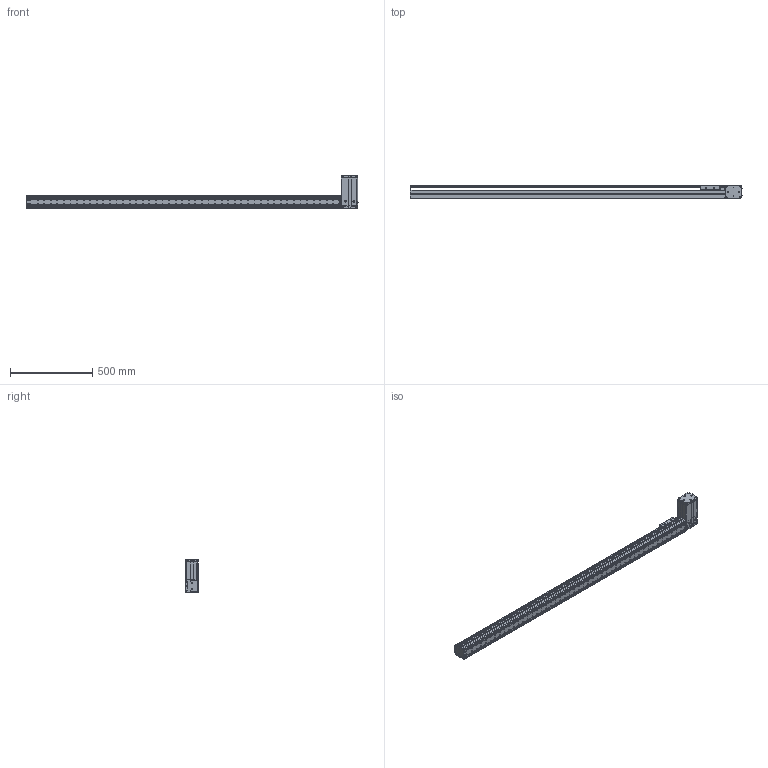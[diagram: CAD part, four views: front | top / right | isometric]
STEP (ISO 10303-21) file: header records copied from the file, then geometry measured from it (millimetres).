
FILE_DESCRIPTION((''),'2;1');
FILE_NAME('BE10_-BR-M_N-H0_IGS_PRT','2017-06-18T',(' '),(''),'PRO/ENGINEER BY PARAMETRIC TECHNOLOGY CORPORATION, 2015030','PRO/ENGINEER BY PARAMETRIC TECHNOLOGY CORPORATION, 2015030','');
FILE_SCHEMA(('CONFIG_CONTROL_DESIGN'));
Products named in the file (1): BE10_-BR-M_N-H0_IGS_PRT
Bounding box: 2020.8 x 85 x 200.22 mm (x, y, z)
Volume: 2639114.2 mm3; surface area: 1872773 mm2
Topology: 5 solids, 173 shells, 2348 faces, 6422 edges, 4271 vertices
Faces by surface type: cylinder 1112, plane 1073, cone 107, sphere 28, torus 25, bspline 3
Entity records: 76917 total; most frequent: CARTESIAN_POINT 15939, DIRECTION 12983, ORIENTED_EDGE 12068, EDGE_CURVE 6360, AXIS2_PLACEMENT_3D 4763, VERTEX_POINT 4271, VECTOR 3457, LINE 3457
